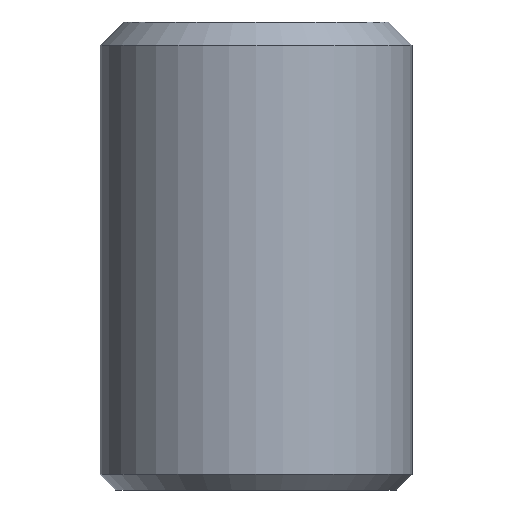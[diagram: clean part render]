
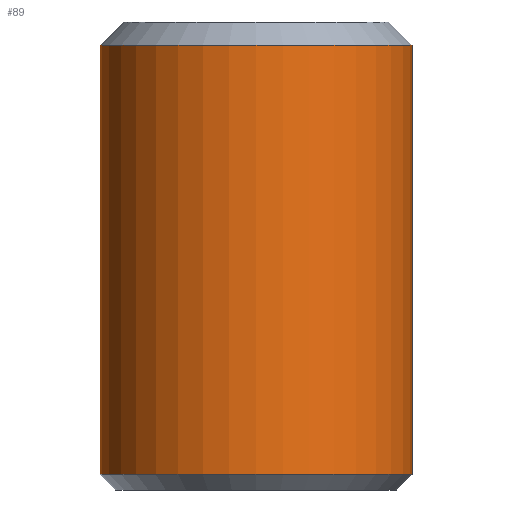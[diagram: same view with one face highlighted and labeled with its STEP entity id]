
A CAD part, front view. The second image highlights one B-rep face of the part: STEP entity #89.
In plain terms, the highlighted cylindrical face has radius 10 mm (diameter 20 mm), a full revolution.
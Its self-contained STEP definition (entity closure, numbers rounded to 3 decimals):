
#23=FACE_OUTER_BOUND('',#29,.T.);
#29=EDGE_LOOP('',(#73,#74,#75,#76));
#37=LINE('',#165,#41);
#41=VECTOR('',#139,10.);
#45=CIRCLE('',#111,10.);
#47=CIRCLE('',#114,10.);
#51=VERTEX_POINT('',#157);
#53=VERTEX_POINT('',#163);
#58=EDGE_CURVE('',#51,#51,#45,.T.);
#61=EDGE_CURVE('',#53,#53,#47,.T.);
#62=EDGE_CURVE('',#53,#51,#37,.T.);
#73=ORIENTED_EDGE('',*,*,#61,.F.);
#74=ORIENTED_EDGE('',*,*,#62,.T.);
#75=ORIENTED_EDGE('',*,*,#58,.F.);
#76=ORIENTED_EDGE('',*,*,#62,.F.);
#86=CYLINDRICAL_SURFACE('',#113,10.);
#89=ADVANCED_FACE('',(#23),#86,.T.);
#111=AXIS2_PLACEMENT_3D('',#158,#130,#131);
#113=AXIS2_PLACEMENT_3D('',#162,#135,#136);
#114=AXIS2_PLACEMENT_3D('',#164,#137,#138);
#130=DIRECTION('center_axis',(0.,0.,-1.));
#131=DIRECTION('ref_axis',(-1.,0.,0.));
#135=DIRECTION('center_axis',(0.,0.,1.));
#136=DIRECTION('ref_axis',(-1.,0.,0.));
#137=DIRECTION('center_axis',(0.,0.,1.));
#138=DIRECTION('ref_axis',(-1.,0.,0.));
#139=DIRECTION('',(0.,0.,-1.));
#157=CARTESIAN_POINT('',(-85.,95.,5.));
#158=CARTESIAN_POINT('Origin',(-95.,95.,5.));
#162=CARTESIAN_POINT('Origin',(-95.,95.,4.));
#163=CARTESIAN_POINT('',(-85.,95.,32.5));
#164=CARTESIAN_POINT('Origin',(-95.,95.,32.5));
#165=CARTESIAN_POINT('',(-85.,95.,4.));
